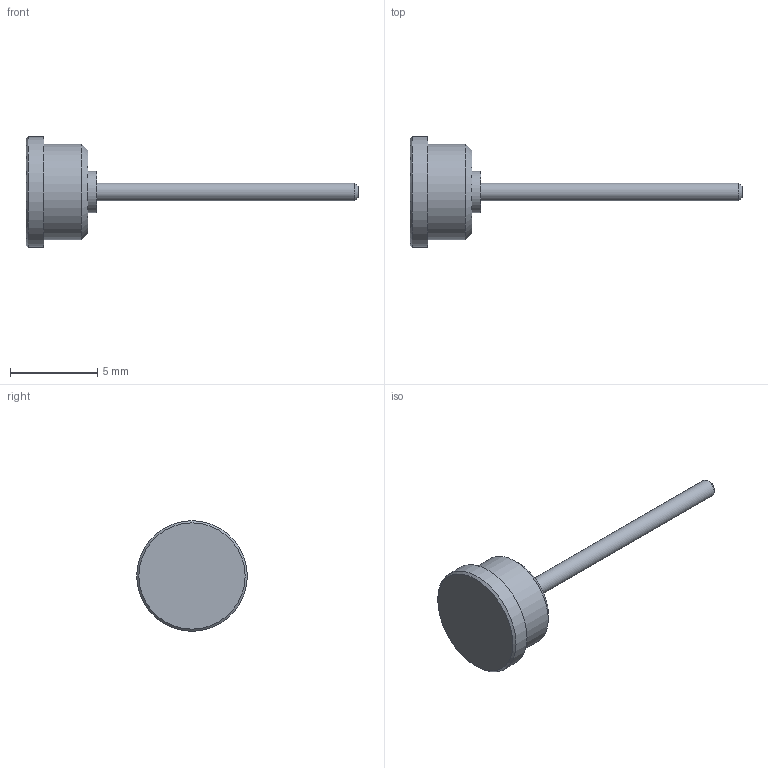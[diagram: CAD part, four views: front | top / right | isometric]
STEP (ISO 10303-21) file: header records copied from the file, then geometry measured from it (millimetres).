
FILE_DESCRIPTION(/* description */ (''),/* implementation_level */ '2;1');
FILE_NAME(/* name */ '\\Snap1\dwgs\Customer 3D Models\571\571-4138-01 Customer model.stp',/* time_stamp */ '2017-01-06T08:25:25+00:00',/* author */ ('paulk'),/* organization */ (''),/* preprocessor_version */ 'ST-DEVELOPER v15.2',/* originating_system */ 'Autodesk Inventor 2014',/* authorisation */ '');
FILE_SCHEMA (('CONFIG_CONTROL_DESIGN'));
Length unit declared in the file: millimetre
Products named in the file (1): 571-4138-01 Customer model
Bounding box: 19.05 x 6.35 x 6.35 mm (x, y, z)
Volume: 105.3 mm3; surface area: 173.1 mm2
Topology: 1 solids, 1 shells, 12 faces, 18 edges, 11 vertices
Faces by surface type: plane 5, cylinder 4, cone 3
Full cylindrical faces by diameter (mm): 1.016 x1, 2.388 x1, 5.486 x1, 6.35 x1
Entity records: 281 total; most frequent: DIRECTION 48, CARTESIAN_POINT 35, AXIS2_PLACEMENT_3D 24, EDGE_LOOP 22, ORIENTED_EDGE 22, FACE_BOUND 13, STYLED_ITEM 13, ADVANCED_FACE 12
